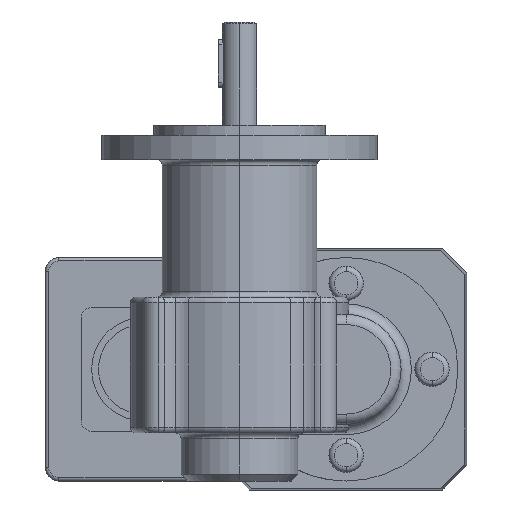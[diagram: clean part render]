
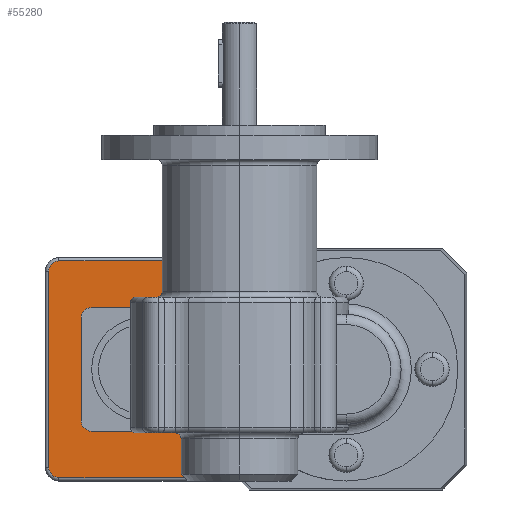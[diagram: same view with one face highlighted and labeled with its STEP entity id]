
A CAD part, left-side view. The second image highlights one B-rep face of the part: STEP entity #55280.
In plain terms, the highlighted planar face has unit normal (-1, 0, 0) as drawn and (0, 0, 1) by its records, which use the part's own axes.
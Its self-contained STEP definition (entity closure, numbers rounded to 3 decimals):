
#45860=CARTESIAN_POINT('',(-101.958,-210.977,-15.5));
#45870=VERTEX_POINT('',#45860);
#46040=CARTESIAN_POINT('',(-101.958,-264.268,-15.5));
#46050=VERTEX_POINT('',#46040);
#46080=CARTESIAN_POINT('',(-101.958,-305.92,-15.5));
#46090=DIRECTION('',(0.,1.,0.));
#46100=VECTOR('',#46090,1.);
#46110=LINE('',#46080,#46100);
#46120=EDGE_CURVE('',#46050,#45870,#46110,.T.);
#48380=CARTESIAN_POINT('',(-104.958,-210.977,-15.5));
#48390=DIRECTION('',(0.,0.,-1.));
#48400=DIRECTION('',(-1.,0.,0.));
#48410=AXIS2_PLACEMENT_3D('',#48380,#48390,#48400);
#48420=CIRCLE('',#48410,3.);
#48430=CARTESIAN_POINT('',(-104.958,-207.977,-15.5));
#48440=VERTEX_POINT('',#48430);
#48450=EDGE_CURVE('',#48440,#45870,#48420,.T.);
#49030=CARTESIAN_POINT('',(-161.958,-207.977,-15.5));
#49040=VERTEX_POINT('',#49030);
#49090=CARTESIAN_POINT('',(-121.85,-207.977,-15.5));
#49100=DIRECTION('',(-1.,0.,0.));
#49110=VECTOR('',#49100,1.);
#49120=LINE('',#49090,#49110);
#49130=EDGE_CURVE('',#48440,#49040,#49120,.T.);
#49350=CARTESIAN_POINT('',(-164.958,-210.977,-15.5));
#49360=VERTEX_POINT('',#49350);
#49390=CARTESIAN_POINT('',(-164.958,-305.92,-15.5));
#49400=DIRECTION('',(0.,-1.,0.));
#49410=VECTOR('',#49400,1.);
#49420=LINE('',#49390,#49410);
#49430=CARTESIAN_POINT('',(-164.958,-264.268,-15.5));
#49440=VERTEX_POINT('',#49430);
#49450=EDGE_CURVE('',#49360,#49440,#49420,.T.);
#49620=CARTESIAN_POINT('',(-161.958,-210.977,-15.5));
#49630=DIRECTION('',(0.,0.,-1.));
#49640=DIRECTION('',(-1.,0.,0.));
#49650=AXIS2_PLACEMENT_3D('',#49620,#49630,#49640);
#49660=CIRCLE('',#49650,3.);
#49670=EDGE_CURVE('',#49360,#49040,#49660,.T.);
#49790=CARTESIAN_POINT('',(-148.458,-220.477,-15.5));
#49800=DIRECTION('',(0.,0.,1.));
#49810=DIRECTION('',(1.,0.,0.));
#49820=AXIS2_PLACEMENT_3D('',#49790,#49800,#49810);
#49830=CIRCLE('',#49820,3.);
#49840=CARTESIAN_POINT('',(-148.458,-217.477,-15.5));
#49850=VERTEX_POINT('',#49840);
#49860=CARTESIAN_POINT('',(-151.458,-220.477,-15.5));
#49870=VERTEX_POINT('',#49860);
#49880=EDGE_CURVE('',#49850,#49870,#49830,.T.);
#52800=CARTESIAN_POINT('',(-105.958,-260.268,-15.5));
#52810=VERTEX_POINT('',#52800);
#52890=CARTESIAN_POINT('',(-160.958,-260.268,-15.5));
#52900=VERTEX_POINT('',#52890);
#52930=CARTESIAN_POINT('',(-132.613,-260.268,-15.5));
#52940=DIRECTION('',(-1.,0.,0.));
#52950=VECTOR('',#52940,1.);
#52960=LINE('',#52930,#52950);
#52970=EDGE_CURVE('',#52810,#52900,#52960,.T.);
#53440=CARTESIAN_POINT('',(-81.728,-284.497,-15.5));
#53450=DIRECTION('',(-0.707,0.707,0.));
#53460=VECTOR('',#53450,1.);
#53470=LINE('',#53440,#53460);
#53480=EDGE_CURVE('',#46050,#52810,#53470,.T.);
#53660=CARTESIAN_POINT('',(-185.187,-284.497,-15.5));
#53670=DIRECTION('',(-0.707,-0.707,0.));
#53680=VECTOR('',#53670,1.);
#53690=LINE('',#53660,#53680);
#53700=EDGE_CURVE('',#52900,#49440,#53690,.T.);
#54530=CARTESIAN_POINT('',(-106.641,-253.158,-15.5));
#54540=DIRECTION('',(0.,0.,1.));
#54550=DIRECTION('',(0.,-1.,0.));
#54560=AXIS2_PLACEMENT_3D('',#54530,#54540,#54550);
#54570=PLANE('',#54560);
#54580=ORIENTED_EDGE('',*,*,#53700,.F.);
#54590=ORIENTED_EDGE('',*,*,#49450,.T.);
#54600=ORIENTED_EDGE('',*,*,#49670,.F.);
#54610=ORIENTED_EDGE('',*,*,#49130,.T.);
#54620=ORIENTED_EDGE('',*,*,#48450,.F.);
#54630=ORIENTED_EDGE('',*,*,#46120,.T.);
#54640=ORIENTED_EDGE('',*,*,#53480,.F.);
#54650=ORIENTED_EDGE('',*,*,#52970,.F.);
#54660=EDGE_LOOP('',(#54650,#54640,#54630,#54620,#54610,#54600,#54590,
#54580));
#54670=FACE_OUTER_BOUND('',#54660,.T.);
#54680=CARTESIAN_POINT('',(-148.458,-250.477,-15.5));
#54690=DIRECTION('',(0.,0.,1.));
#54700=DIRECTION('',(1.,0.,0.));
#54710=AXIS2_PLACEMENT_3D('',#54680,#54690,#54700);
#54720=CIRCLE('',#54710,3.);
#54730=CARTESIAN_POINT('',(-151.458,-250.477,-15.5));
#54740=VERTEX_POINT('',#54730);
#54750=CARTESIAN_POINT('',(-148.458,-253.477,-15.5));
#54760=VERTEX_POINT('',#54750);
#54770=EDGE_CURVE('',#54740,#54760,#54720,.T.);
#54780=ORIENTED_EDGE('',*,*,#54770,.F.);
#54790=CARTESIAN_POINT('',(-121.85,-253.477,-15.5));
#54800=DIRECTION('',(-1.,0.,0.));
#54810=VECTOR('',#54800,1.);
#54820=LINE('',#54790,#54810);
#54830=CARTESIAN_POINT('',(-118.458,-253.477,-15.5));
#54840=VERTEX_POINT('',#54830);
#54850=EDGE_CURVE('',#54840,#54760,#54820,.T.);
#54860=ORIENTED_EDGE('',*,*,#54850,.T.);
#54870=CARTESIAN_POINT('',(-118.458,-250.477,-15.5));
#54880=DIRECTION('',(0.,0.,1.));
#54890=DIRECTION('',(1.,0.,0.));
#54900=AXIS2_PLACEMENT_3D('',#54870,#54880,#54890);
#54910=CIRCLE('',#54900,3.);
#54920=CARTESIAN_POINT('',(-115.458,-250.477,-15.5));
#54930=VERTEX_POINT('',#54920);
#54940=EDGE_CURVE('',#54840,#54930,#54910,.T.);
#54950=ORIENTED_EDGE('',*,*,#54940,.F.);
#54960=CARTESIAN_POINT('',(-115.458,-305.92,-15.5));
#54970=DIRECTION('',(0.,-1.,0.));
#54980=VECTOR('',#54970,1.);
#54990=LINE('',#54960,#54980);
#55000=CARTESIAN_POINT('',(-115.458,-220.477,-15.5));
#55010=VERTEX_POINT('',#55000);
#55020=EDGE_CURVE('',#55010,#54930,#54990,.T.);
#55030=ORIENTED_EDGE('',*,*,#55020,.T.);
#55040=CARTESIAN_POINT('',(-118.458,-220.477,-15.5));
#55050=DIRECTION('',(0.,0.,1.));
#55060=DIRECTION('',(1.,0.,0.));
#55070=AXIS2_PLACEMENT_3D('',#55040,#55050,#55060);
#55080=CIRCLE('',#55070,3.);
#55090=CARTESIAN_POINT('',(-118.458,-217.477,-15.5));
#55100=VERTEX_POINT('',#55090);
#55110=EDGE_CURVE('',#55010,#55100,#55080,.T.);
#55120=ORIENTED_EDGE('',*,*,#55110,.F.);
#55130=CARTESIAN_POINT('',(-121.85,-217.477,-15.5));
#55140=DIRECTION('',(1.,0.,0.));
#55150=VECTOR('',#55140,1.);
#55160=LINE('',#55130,#55150);
#55170=EDGE_CURVE('',#49850,#55100,#55160,.T.);
#55180=ORIENTED_EDGE('',*,*,#55170,.T.);
#55190=ORIENTED_EDGE('',*,*,#49880,.F.);
#55200=CARTESIAN_POINT('',(-151.458,-305.92,-15.5));
#55210=DIRECTION('',(0.,1.,0.));
#55220=VECTOR('',#55210,1.);
#55230=LINE('',#55200,#55220);
#55240=EDGE_CURVE('',#54740,#49870,#55230,.T.);
#55250=ORIENTED_EDGE('',*,*,#55240,.T.);
#55260=EDGE_LOOP('',(#55250,#55190,#55180,#55120,#55030,#54950,#54860,
#54780));
#55270=FACE_BOUND('',#55260,.T.);
#55280=ADVANCED_FACE('',(#54670,#55270),#54570,.T.);
